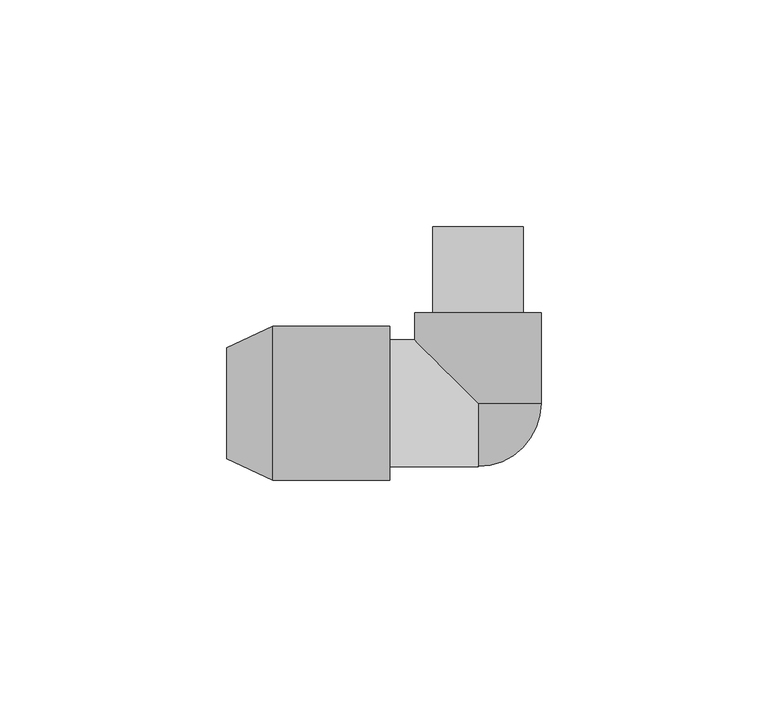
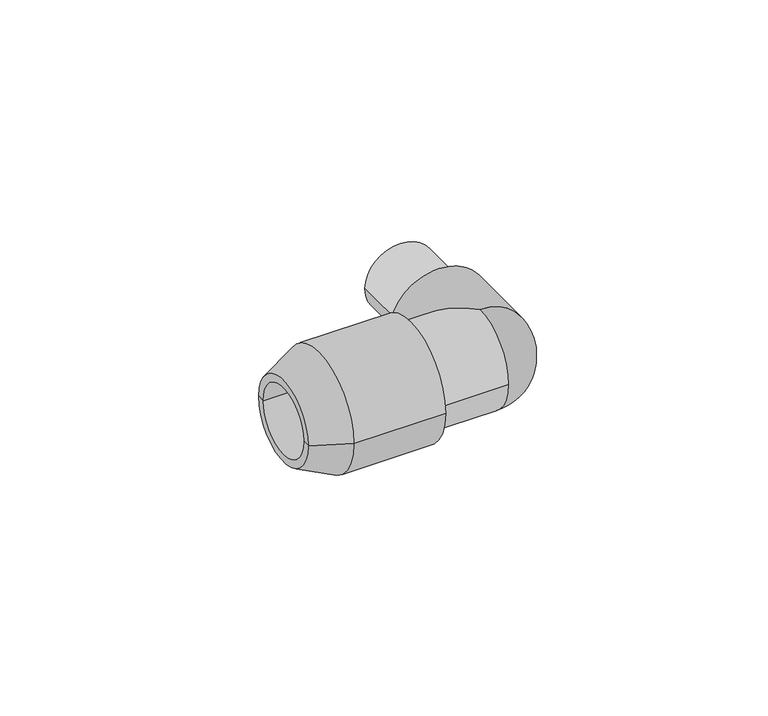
"""IFC4 building model written with IfcOpenShell, lengths in millimetres: pipe fitting geometry."""

from ifc_helpers import new_model, si_unit, point, frame, origin, origin_2d, place, context, project, spatial, polyline, circle_curve, ellipse_curve, trimmed, segment, composite_curve, outline, extrude, source, transform, mapped, element, save
from ifc_brep_helpers import plane_surface, cylinder_surface, revolved_surface, advanced_brep


def pipe_fitting_615b61a4(model_context):
    return source(origin(), model_context, "Body", "SolidModel", [
        advanced_brep(
        [(-19.5, -17.0, 0.0), (-19.5, 17.0, 0.0), (-19.5, 0.0, 0.0), (-45.3135921, -17.0, 0.0), (-45.3135921, 17.0, 0.0), (-55.5, -12.25, 0.0), (-55.5, 12.25, 0.0), (-30.0, -10.0, 0.0), (-30.0, 10.0, 0.0), (-55.5, 10.0, 0.0), (-55.5, -10.0, 0.0), (-30.0, 0.0, 0.0)],
        [
            (0, 1, circle_curve(frame((-19.5, 0.0, 0.0), z_axis=(1.0, 0.0, 0.0), x_axis=(0.0, 1.0, 0.0)), 17.0)),
            (1, 2),
            (2, 0),
            (1, 0, circle_curve(frame((-19.5, 0.0, 0.0), z_axis=(1.0, 0.0, 0.0), x_axis=(0.0, 1.0, 0.0)), 17.0)),
            (3, 4, circle_curve(frame((-45.3135921, 0.0, 0.0), z_axis=(1.0, 0.0, 0.0), x_axis=(0.0, 1.0, 0.0)), 17.0)),
            (4, 1),
            (0, 3),
            (4, 3, circle_curve(frame((-45.3135921, 0.0, 0.0), z_axis=(1.0, 0.0, 0.0), x_axis=(0.0, 1.0, 0.0)), 17.0)),
            (5, 6, circle_curve(frame((-55.5, 0.0, 0.0), z_axis=(1.0, 0.0, 0.0), x_axis=(0.0, 1.0, 0.0)), 12.25)),
            (6, 4),
            (3, 5),
            (6, 5, circle_curve(frame((-55.5, 0.0, 0.0), z_axis=(1.0, 0.0, 0.0), x_axis=(0.0, 1.0, 0.0)), 12.25)),
            (7, 8, circle_curve(frame((-30.0, 0.0, 0.0), z_axis=(1.0, 0.0, 0.0), x_axis=(0.0, 1.0, 0.0)), 10.0)),
            (8, 9),
            (9, 10, circle_curve(frame((-55.5, 0.0, 0.0), z_axis=(-1.0, 0.0, 0.0), x_axis=(0.0, 1.0, 0.0)), 10.0)),
            (10, 7),
            (8, 7, circle_curve(frame((-30.0, 0.0, 0.0), z_axis=(1.0, 0.0, 0.0), x_axis=(0.0, 1.0, 0.0)), 10.0)),
            (10, 9, circle_curve(frame((-55.5, 0.0, 0.0), z_axis=(-1.0, 0.0, 0.0), x_axis=(0.0, 1.0, 0.0)), 10.0)),
            (11, 8),
            (7, 11),
            (9, 6),
            (5, 10),
        ],
        [
            plane_surface(frame((-19.5, 0.0, 0.0), z_axis=(1.0, 0.0, 0.0), x_axis=(0.0, 1.0, 0.0))),
            cylinder_surface(frame((-65.5, 0.0, 0.0), z_axis=(-1.0, 0.0, 0.0), x_axis=(0.0, 1.0, 0.0)), 17.0),
            revolved_surface(polyline([(-45.3135921, 17.0, 0.0), (-55.5, 12.25, 0.0)]), (-65.5, 0.0, 0.0), (-1.0, 0.0, 0.0)),
            revolved_surface(polyline([(-55.5, 10.0, 0.0), (-30.0, 10.0, 0.0)]), (-65.5, 0.0, 0.0), (-1.0, 0.0, 0.0)),
            plane_surface(frame((-30.0, 0.0, 0.0), z_axis=(-1.0, 0.0, 0.0), x_axis=(0.0, 1.0, 0.0))),
            plane_surface(frame((-55.5, 0.0, 0.0), z_axis=(-1.0, 0.0, 0.0), x_axis=(0.0, 1.0, 0.0))),
        ],
        [
            (0, [[1, 2, 3]]),
            (0, [[4, -3, -2]]),
            (1, [[5, 6, -1, 7]]),
            (1, [[8, -7, -4, -6]]),
            (2, [[9, 10, -5, 11]]),
            (2, [[12, -11, -8, -10]]),
            (3, [[13, 14, 15, 16]]),
            (3, [[17, -16, 18, -14]]),
            (4, [[19, -13, 20]]),
            (4, [[-20, -17, -19]]),
            (5, [[-15, 21, -9, 22]]),
            (5, [[-18, -22, -12, -21]]),
        ],
    ),
        extrude(outline(composite_curve([segment(trimmed(circle_curve(origin_2d(), 10.0), [point((0.0, 10.0))], [point((0.0, -10.0))], False, "CARTESIAN"), True, "CONTINUOUS"), segment(trimmed(circle_curve(origin_2d(), 10.0), [point((0.0, -10.0))], [point((0.0, 10.0))], False, "CARTESIAN"), True, "CONTINUOUS")], self_intersect=False)), frame((0.0, 20.0, 0.0), z_axis=(0.0, 1.0, 0.0), x_axis=(0.0, 0.0, 1.0)), (0.0, 0.0, 1.0), 19.0),
        advanced_brep(
        [(-14.0, 20.0, 0.0), (14.0, 20.0, 0.0), (-14.0, 14.0, 0.0), (0.0, 0.0, 14.0), (14.0, 0.0, 0.0), (0.0, 0.0, -14.0), (-19.5, 14.0, 0.0), (-19.5, -14.0, 0.0), (0.0, -14.0, 0.0)],
        [
            (0, 1, circle_curve(frame((0.0, 20.0, 0.0), z_axis=(0.0, 1.0, 0.0), x_axis=(1.0, 0.0, 0.0)), 14.0)),
            (1, 0, circle_curve(frame((0.0, 20.0, 0.0), z_axis=(0.0, 1.0, 0.0), x_axis=(1.0, 0.0, 0.0)), 14.0)),
            (0, 2),
            (2, 3, ellipse_curve(frame((0.0, 0.0, 0.0), z_axis=(0.7071067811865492, 0.7071067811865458, 0.0), x_axis=(-0.7071067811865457, 0.7071067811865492, 0.0)), 19.7989899, 14.0)),
            (3, 4, circle_curve(frame((0.0, 0.0, 0.0), z_axis=(0.0, 1.0, 0.0), x_axis=(1.0, 0.0, 0.0)), 14.0)),
            (4, 1),
            (4, 5, circle_curve(frame((0.0, 0.0, 0.0), z_axis=(0.0, 1.0, 0.0), x_axis=(1.0, 0.0, 0.0)), 14.0)),
            (5, 2, ellipse_curve(frame((0.0, 0.0, 0.0), z_axis=(0.7071067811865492, 0.7071067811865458, 0.0), x_axis=(-0.7071067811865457, 0.7071067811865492, 0.0)), 19.7989899, 14.0)),
            (6, 7, circle_curve(frame((-19.5, 0.0, 0.0), z_axis=(-1.0, 0.0, 0.0), x_axis=(0.0, -1.0, 0.0)), 14.0)),
            (7, 6, circle_curve(frame((-19.5, 0.0, 0.0), z_axis=(-1.0, 0.0, 0.0), x_axis=(0.0, -1.0, 0.0)), 14.0)),
            (7, 8),
            (8, 3, circle_curve(frame((0.0, 0.0, 0.0), z_axis=(-1.0, 0.0, 0.0), x_axis=(0.0, -1.0, 0.0)), 14.0)),
            (2, 6),
            (5, 8, circle_curve(frame((0.0, 0.0, 0.0), z_axis=(-1.0, 0.0, 0.0), x_axis=(0.0, -1.0, 0.0)), 14.0)),
        ],
        [
            plane_surface(frame((0.0, 20.0, 0.0), z_axis=(0.0, 1.0, 0.0), x_axis=(0.0, 0.0, 1.0))),
            cylinder_surface(frame((0.0, 20.0, 0.0), z_axis=(0.0, 1.0, 0.0), x_axis=(1.0, 0.0, 0.0)), 14.0),
            plane_surface(frame((-19.5, 0.0, 0.0), z_axis=(-1.0, 0.0, 0.0), x_axis=(0.0, 0.0, 1.0))),
            cylinder_surface(frame((0.0, 0.0, 0.0), z_axis=(1.0, 0.0, 0.0), x_axis=(0.0, -1.0, 0.0)), 14.0),
            revolved_surface(trimmed(ellipse_curve(frame((0.0, 0.0, 0.0), z_axis=(0.0, -1.0, 0.0), x_axis=(1.0, 0.0, 0.0)), 14.0, 14.0), [point((0.0, 0.0, -14.0))], [point((0.0, 0.0, 14.0))], True, "CARTESIAN"), (0.0, 0.0, 35.7080973), (0.0, 0.0, 1.0)),
        ],
        [
            (0, [[1, 2]]),
            (1, [[-1, 3, 4, 5, 6]]),
            (1, [[-2, -6, 7, 8, -3]]),
            (2, [[9, 10]]),
            (3, [[-10, 11, 12, -4, 13]]),
            (3, [[-9, -13, -8, 14, -11]]),
            (4, [[-5, -12, -14, -7]]),
        ],
    ),
    ])


if __name__ == "__main__":
    model = new_model("IFC4")
    model_context = context("Model", 3, world=origin())
    ifc_project = project(units=[si_unit("LENGTHUNIT", "METRE", prefix="MILLI")], contexts=[model_context])
    site = spatial("IfcSite", under=ifc_project)
    building = spatial("IfcBuilding", under=site)
    placement = place(None, origin())
    pipe_fitting_shape = pipe_fitting_615b61a4(model_context)
    element("IfcPipeFitting", 1, ObjectType="NLRS_50_PIF_UN_PushFit overgangsbocht 90° met buitendraad_geb : DN12-20-R3/4\" / d16-25-R3/4\"", at=placement, inside=building, context=model_context, shape_type="MappedRepresentation", body=[
        mapped(pipe_fitting_shape, transform((0.0, 0.0, 0.0), x_axis=(1.0, 0.0, 0.0), y_axis=(0.0, 1.0, 0.0), z_axis=(0.0, 0.0, 1.0))),
    ])
    save(model, "model.ifc")
